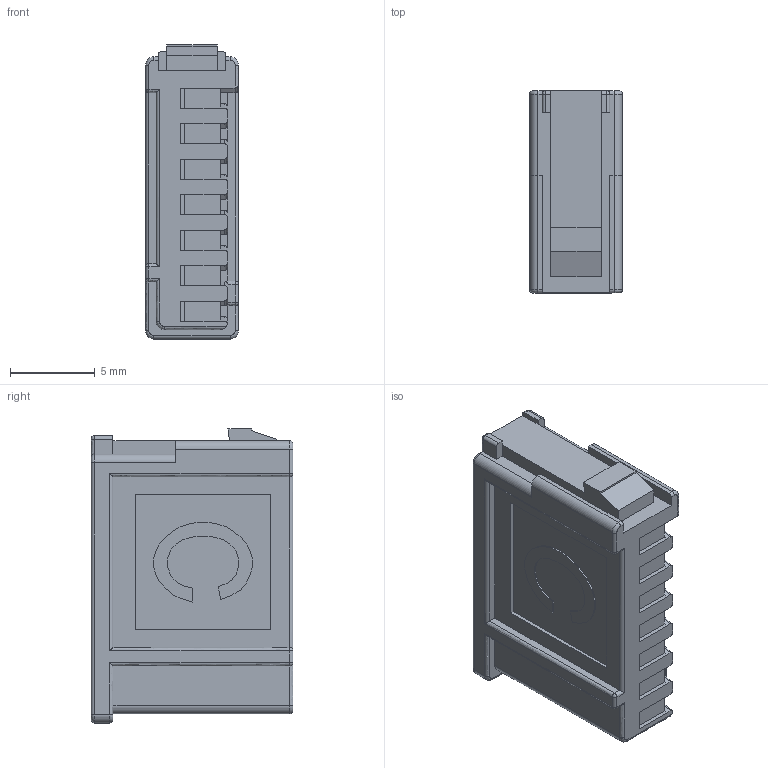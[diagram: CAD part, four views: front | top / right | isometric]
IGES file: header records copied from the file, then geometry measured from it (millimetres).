
Start section: Elysium IGES Interface
Global section: file name: 61HE:\図面登録\図面登録\3DCAD\FK\客先提出用\P3F001_FK01-07-C.igs; native system: Creo Elements/Direct Modeling 20.6  25-Mar-2023; preprocessor: Creo Element/Direct IGES_3D V2.2; author: Unknown; organization: Unknown; date: 20250424.095815; units: millimetre
Bounding box: 5.5 x 11.95 x 17.4 mm (x, y, z)
Volume: 847.5 mm3; surface area: 775.8 mm2
Topology: 1 solids, 1 shells, 394 faces, 1043 edges, 639 vertices
Faces by surface type: bspline 394
